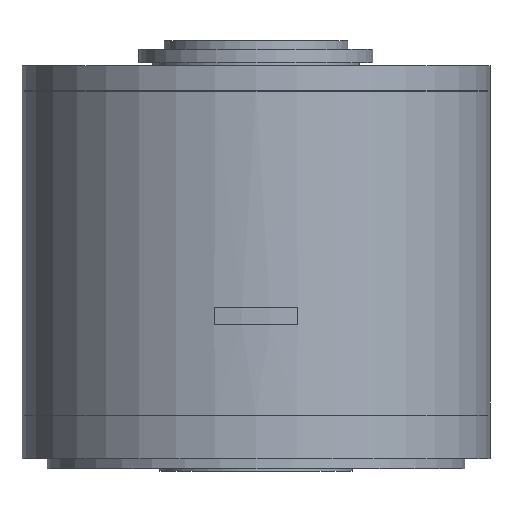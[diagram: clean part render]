
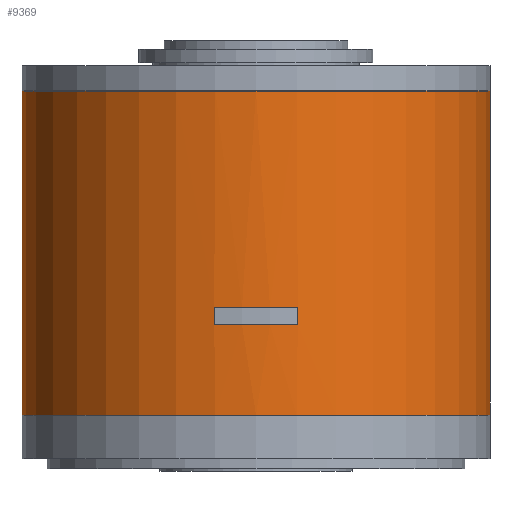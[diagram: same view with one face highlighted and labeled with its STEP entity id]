
A CAD part, front view. The second image highlights one B-rep face of the part: STEP entity #9369.
In plain terms, the highlighted cylindrical face has radius 140 mm (diameter 280 mm), a partial arc.
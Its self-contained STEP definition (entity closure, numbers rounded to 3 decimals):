
#528 = CARTESIAN_POINT ( 'NONE',  ( 140., 0., 0. ) ) ;
#534 = DIRECTION ( 'NONE',  ( 0., 0., 1. ) ) ;
#785 = CIRCLE ( 'NONE', #14066, 140. ) ;
#793 = CIRCLE ( 'NONE', #12243, 140. ) ;
#1899 = VERTEX_POINT ( 'NONE', #11685 ) ;
#1981 = VERTEX_POINT ( 'NONE', #11532 ) ;
#2013 = VERTEX_POINT ( 'NONE', #11315 ) ;
#2093 = VERTEX_POINT ( 'NONE', #11627 ) ;
#2671 = EDGE_CURVE ( 'NONE', #6078, #6079, #7840, .T. ) ;
#3071 = EDGE_CURVE ( 'NONE', #1899, #2093, #785, .T. ) ;
#3077 = EDGE_CURVE ( 'NONE', #6093, #6078, #793, .T. ) ;
#3245 = FACE_OUTER_BOUND ( 'NONE', #14069, .T. ) ;
#3246 = FACE_BOUND ( 'NONE', #5728, .T. ) ;
#3252 = CYLINDRICAL_SURFACE ( 'NONE', #13305, 140. ) ;
#3364 = DIRECTION ( 'NONE',  ( 0., 0., 1. ) ) ;
#3365 = CARTESIAN_POINT ( 'NONE',  ( 25., -137.75, 0. ) ) ;
#3681 = CARTESIAN_POINT ( 'NONE',  ( -140., 0., 0. ) ) ;
#3727 = DIRECTION ( 'NONE',  ( 0., 0., 1. ) ) ;
#3777 = DIRECTION ( 'NONE',  ( 0., 0., 1. ) ) ;
#3783 = DIRECTION ( 'NONE',  ( 1., 0., 0. ) ) ;
#3792 = CARTESIAN_POINT ( 'NONE',  ( 0., 0., -155. ) ) ;
#5678 = AXIS2_PLACEMENT_3D ( 'NONE', #3792, #3777, #3783 ) ;
#5728 = EDGE_LOOP ( 'NONE', ( #8596, #8472, #8535, #8576 ) ) ;
#6041 = VERTEX_POINT ( 'NONE', #10379 ) ;
#6078 = VERTEX_POINT ( 'NONE', #10484 ) ;
#6079 = VERTEX_POINT ( 'NONE', #10339 ) ;
#6093 = VERTEX_POINT ( 'NONE', #10523 ) ;
#7226 = CARTESIAN_POINT ( 'NONE',  ( 0., 0., 0. ) ) ;
#7337 = DIRECTION ( 'NONE',  ( 1., 0., 0. ) ) ;
#7344 = DIRECTION ( 'NONE',  ( 0., 0., 1. ) ) ;
#7840 = LINE ( 'NONE', #10679, #7843 ) ;
#7843 = VECTOR ( 'NONE', #10506, 1000. ) ;
#8472 = ORIENTED_EDGE ( 'NONE', *, *, #15071, .F. ) ;
#8493 = ORIENTED_EDGE ( 'NONE', *, *, #12221, .F. ) ;
#8522 = ORIENTED_EDGE ( 'NONE', *, *, #12209, .T. ) ;
#8535 = ORIENTED_EDGE ( 'NONE', *, *, #15360, .F. ) ;
#8546 = ORIENTED_EDGE ( 'NONE', *, *, #15353, .F. ) ;
#8568 = ORIENTED_EDGE ( 'NONE', *, *, #3071, .F. ) ;
#8576 = ORIENTED_EDGE ( 'NONE', *, *, #2671, .F. ) ;
#8596 = ORIENTED_EDGE ( 'NONE', *, *, #3077, .F. ) ;
#9015 = DIRECTION ( 'NONE',  ( -1., 0., 0. ) ) ;
#9137 = DIRECTION ( 'NONE',  ( 0., 0., -1. ) ) ;
#9140 = CARTESIAN_POINT ( 'NONE',  ( 0., 0., -208.9 ) ) ;
#9369 = ADVANCED_FACE ( 'NONE', ( #3245, #3246 ), #3252, .T. ) ;
#10339 = CARTESIAN_POINT ( 'NONE',  ( -25., -137.75, -155. ) ) ;
#10379 = CARTESIAN_POINT ( 'NONE',  ( 25., -137.75, -155. ) ) ;
#10462 = DIRECTION ( 'NONE',  ( 1., 0., 0. ) ) ;
#10484 = CARTESIAN_POINT ( 'NONE',  ( -25., -137.75, -144.5 ) ) ;
#10506 = DIRECTION ( 'NONE',  ( 0., 0., -1. ) ) ;
#10523 = CARTESIAN_POINT ( 'NONE',  ( 25., -137.75, -144.5 ) ) ;
#10668 = DIRECTION ( 'NONE',  ( 0., 0., 1. ) ) ;
#10679 = CARTESIAN_POINT ( 'NONE',  ( -25., -137.75, 0. ) ) ;
#10735 = DIRECTION ( 'NONE',  ( -1., 0., 0. ) ) ;
#10752 = CARTESIAN_POINT ( 'NONE',  ( 0., 0., -144.5 ) ) ;
#10780 = CARTESIAN_POINT ( 'NONE',  ( 0., 0., -15.1 ) ) ;
#10947 = DIRECTION ( 'NONE',  ( 0., 0., -1. ) ) ;
#11315 = CARTESIAN_POINT ( 'NONE',  ( 140., 0., -208.9 ) ) ;
#11532 = CARTESIAN_POINT ( 'NONE',  ( -140., 0., -208.9 ) ) ;
#11627 = CARTESIAN_POINT ( 'NONE',  ( 140., 0., -15.1 ) ) ;
#11685 = CARTESIAN_POINT ( 'NONE',  ( -140., 0., -15.1 ) ) ;
#12209 = EDGE_CURVE ( 'NONE', #2013, #2093, #12982, .T. ) ;
#12221 = EDGE_CURVE ( 'NONE', #2013, #1981, #13002, .T. ) ;
#12243 = AXIS2_PLACEMENT_3D ( 'NONE', #10752, #10947, #10735 ) ;
#12588 = LINE ( 'NONE', #3681, #12596 ) ;
#12596 = VECTOR ( 'NONE', #3727, 1000. ) ;
#12607 = CIRCLE ( 'NONE', #5678, 140. ) ;
#12982 = LINE ( 'NONE', #528, #12983 ) ;
#12983 = VECTOR ( 'NONE', #534, 1000. ) ;
#13002 = CIRCLE ( 'NONE', #13668, 140. ) ;
#13305 = AXIS2_PLACEMENT_3D ( 'NONE', #7226, #7344, #7337 ) ;
#13668 = AXIS2_PLACEMENT_3D ( 'NONE', #9140, #9137, #9015 ) ;
#14066 = AXIS2_PLACEMENT_3D ( 'NONE', #10780, #10668, #10462 ) ;
#14069 = EDGE_LOOP ( 'NONE', ( #8546, #8493, #8522, #8568 ) ) ;
#14479 = VECTOR ( 'NONE', #3364, 1000. ) ;
#14481 = LINE ( 'NONE', #3365, #14479 ) ;
#15071 = EDGE_CURVE ( 'NONE', #6041, #6093, #14481, .T. ) ;
#15353 = EDGE_CURVE ( 'NONE', #1981, #1899, #12588, .T. ) ;
#15360 = EDGE_CURVE ( 'NONE', #6079, #6041, #12607, .T. ) ;
